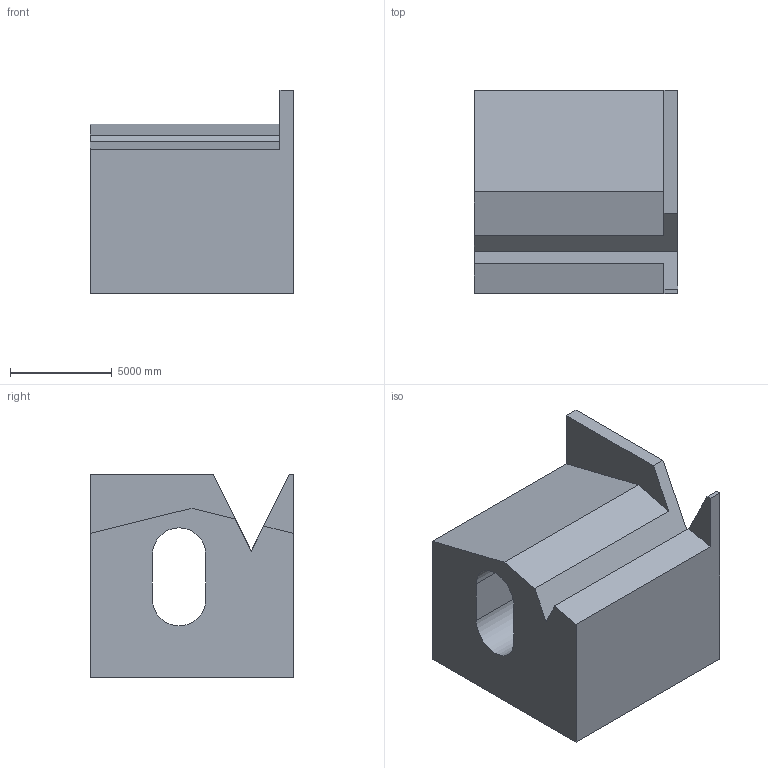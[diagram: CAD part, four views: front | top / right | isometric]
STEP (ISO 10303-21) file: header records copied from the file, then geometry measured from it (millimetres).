
FILE_DESCRIPTION (( 'STEP AP203' ), '1' );
FILE_NAME ('21.STEP', '2022-09-01T11:38:01', ( 'user' ), ( '' ), 'SwSTEP 2.0', 'SolidWorks 2021', '' );
FILE_SCHEMA (( 'CONFIG_CONTROL_DESIGN' ));
Length unit declared in the file: centimetre
Products named in the file (1): 21
Bounding box: 10000 x 10000 x 10000 mm (x, y, z)
Volume: 661394788273.2 mm3; surface area: 657650271.1 mm2
Topology: 1 solids, 1 shells, 19 faces, 51 edges, 34 vertices
Faces by surface type: plane 16, cylinder 3
Entity records: 672 total; most frequent: CARTESIAN_POINT 105, ORIENTED_EDGE 102, DIRECTION 97, EDGE_CURVE 51, VECTOR 45, LINE 45, VERTEX_POINT 34, AXIS2_PLACEMENT_3D 26
